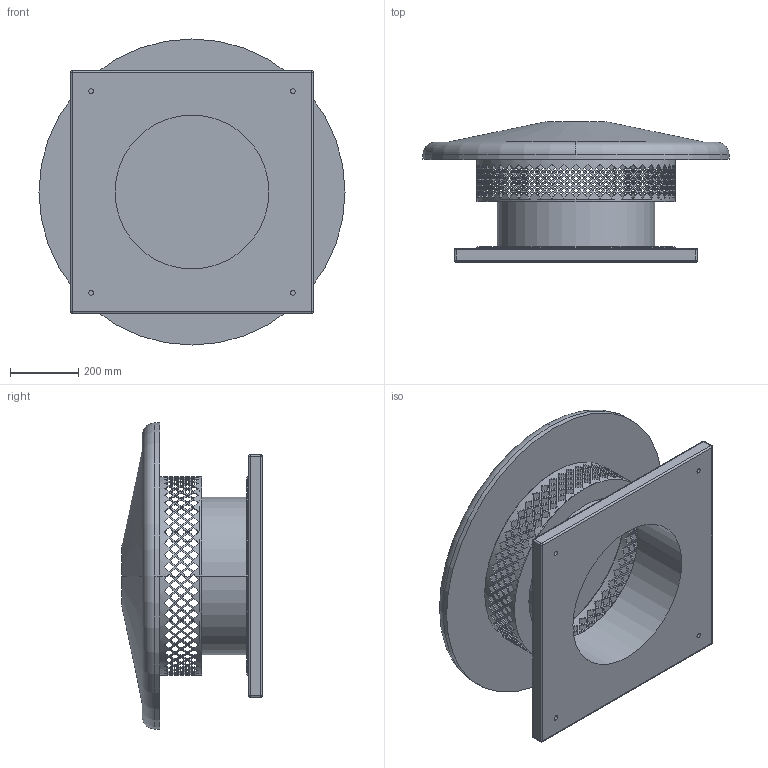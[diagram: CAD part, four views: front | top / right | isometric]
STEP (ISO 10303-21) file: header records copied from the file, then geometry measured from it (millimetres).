
FILE_DESCRIPTION(('STEP AP214'),'1');
FILE_NAME('fan_5113434400.stp','2017-03-31T12:39:52',('TraceParts'),('TraceParts S.A.'),'Spatial InterOp 3D',' ',' ');
FILE_SCHEMA(('automotive_design'));
Length unit declared in the file: millimetre
Products named in the file (1): fan_5113434400
Bounding box: 895 x 410 x 895 mm (x, y, z)
Volume: 58334388.4 mm3; surface area: 3087791.5 mm2
Topology: 1 solids, 1 shells, 1079 faces, 3256 edges, 2158 vertices
Faces by surface type: plane 1033, cylinder 32, sphere 8, torus 4, cone 2
Entity records: 47512 total; most frequent: DIRECTION 7570, ORIENTED_EDGE 6496, CARTESIAN_POINT 6486, EDGE_CURVE 3248, AXIS2_PLACEMENT_3D 3242, VERTEX_POINT 2158, ELLIPSE 2080, EDGE_LOOP 1584
